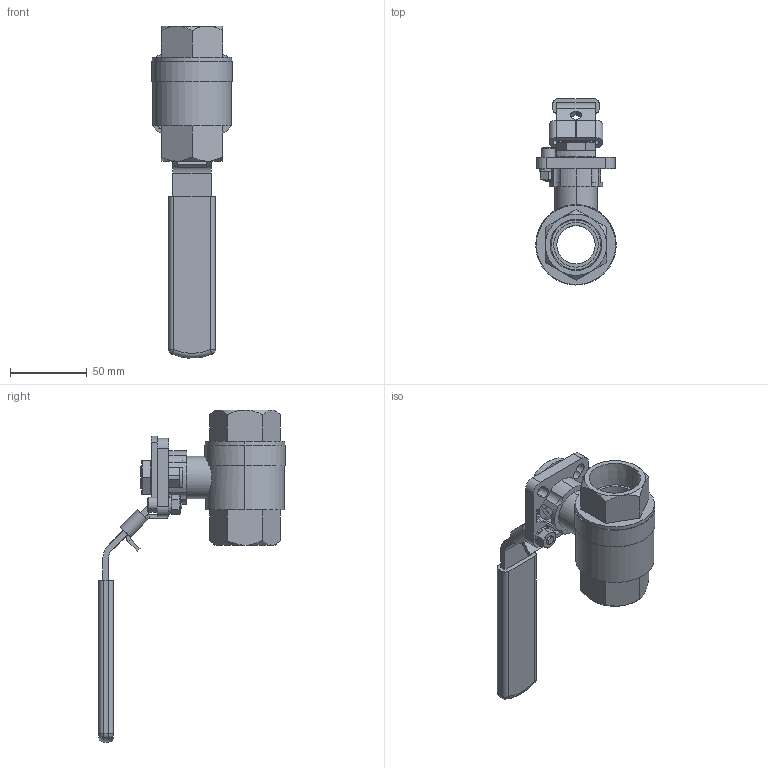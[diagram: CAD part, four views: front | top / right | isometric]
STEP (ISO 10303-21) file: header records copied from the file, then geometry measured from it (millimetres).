
FILE_DESCRIPTION (( 'STEP AP214' ), '1' );
FILE_NAME ('22-TH-0100-XXX.STEP', '2019-08-02T12:24:46', ( '' ), ( '' ), 'SwSTEP 2.0', 'SolidWorks 2019', '' );
FILE_SCHEMA (( 'AUTOMOTIVE_DESIGN' ));
Length unit declared in the file: inch
Products named in the file (10): 22564; 22565; 22570; hex nut_ai_HNUT 0.2500-20-D-N; 22569; socket head cap screw_ai_HX-SHCS 0.25-20x0.625x0.625-N; lock washer spring regular_ai_Regular LW 0.25; 22568; 22571; 22-TH-0100-XXX
Assembly tree (10 placements, depth 2):
  22-TH-0100-XXX
    22564
    22565
    22571
    22570  x2
    22569
    22568
    socket head cap screw_ai_HX-SHCS 0.25-20x0.625x0.625-N
    lock washer spring regular_ai_Regular LW 0.25
    hex nut_ai_HNUT 0.2500-20-D-N
Bounding box: 52.27 x 121.13 x 215.75 mm (x, y, z)
Volume: 163934.4 mm3; surface area: 62366.3 mm2
Topology: 10 solids, 10 shells, 309 faces, 738 edges, 451 vertices
Faces by surface type: plane 178, cylinder 85, cone 38, sphere 4, torus 4
Entity records: 9438 total; most frequent: CARTESIAN_POINT 1947, DIRECTION 1456, ORIENTED_EDGE 1368, EDGE_CURVE 684, AXIS2_PLACEMENT_3D 526, VERTEX_POINT 423, LINE 404, VECTOR 404
